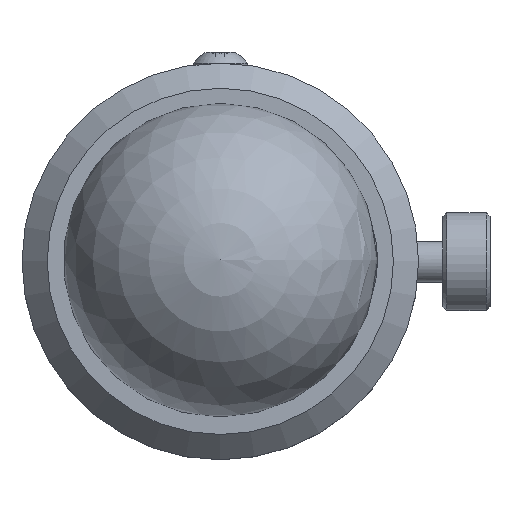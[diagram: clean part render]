
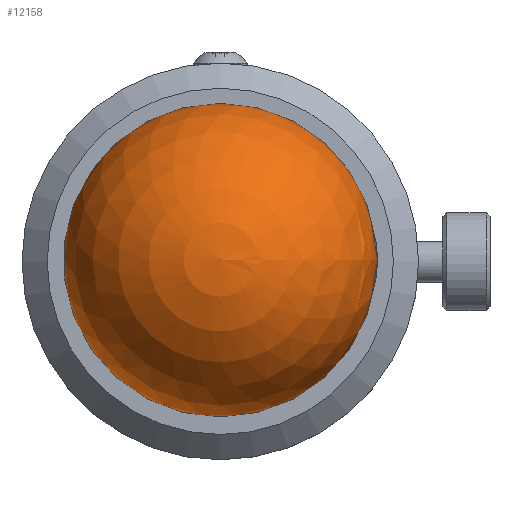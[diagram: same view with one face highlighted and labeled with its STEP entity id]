
A CAD part, top view. The second image highlights one B-rep face of the part: STEP entity #12158.
In plain terms, the highlighted spherical face has radius 15.875 mm.
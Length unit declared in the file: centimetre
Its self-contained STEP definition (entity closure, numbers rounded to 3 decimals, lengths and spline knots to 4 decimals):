
#113=SPHERICAL_SURFACE('',#42283,1.5875);
#3382=VERTEX_POINT('',#39260);
#3383=VERTEX_POINT('',#39262);
#3384=VERTEX_POINT('',#39263);
#3385=VERTEX_POINT('',#39265);
#4173=CIRCLE('',#42284,0.4763);
#4174=CIRCLE('',#42285,1.5875);
#4175=CIRCLE('',#42286,1.5875);
#5450=EDGE_CURVE('',#3382,#3382,#4173,.T.);
#5451=EDGE_CURVE('',#3383,#3384,#4174,.T.);
#5452=EDGE_CURVE('',#3383,#3385,#4175,.T.);
#8231=ORIENTED_EDGE('',*,*,#5450,.F.);
#8232=ORIENTED_EDGE('',*,*,#5451,.T.);
#8233=ORIENTED_EDGE('',*,*,#5451,.F.);
#8234=ORIENTED_EDGE('',*,*,#5452,.T.);
#8235=ORIENTED_EDGE('',*,*,#5452,.F.);
#10549=EDGE_LOOP('',(#8231));
#10550=EDGE_LOOP('',(#8232,#8233,#8234,#8235));
#11372=FACE_BOUND('',#10549,.T.);
#11373=FACE_BOUND('',#10550,.T.);
#12158=ADVANCED_FACE('',(#11372,#11373),#113,.T.);
#13600=DIRECTION('',(0.,0.,1.));
#13601=DIRECTION('',(1.,0.,0.));
#13602=DIRECTION('',(0.,0.,-1.));
#13603=DIRECTION('',(-0.44,-0.182,0.));
#13604=DIRECTION('',(-1.,0.,0.));
#13605=DIRECTION('',(0.,0.,1.588));
#13606=DIRECTION('',(1.,0.,0.));
#13607=DIRECTION('',(0.,1.588,0.));
#39258=CARTESIAN_POINT('',(0.,0.,20.3834));
#39259=CARTESIAN_POINT('',(0.,0.,18.869));
#39260=CARTESIAN_POINT('',(0.4399,0.1824,18.869));
#39261=CARTESIAN_POINT('',(0.,0.,20.3834));
#39262=CARTESIAN_POINT('',(0.,0.,
21.9709));
#39263=CARTESIAN_POINT('',(0.,0.5556,18.8963));
#39264=CARTESIAN_POINT('',(0.,0.,20.3834));
#39265=CARTESIAN_POINT('',(0.,-0.5556,18.8963));
#42283=AXIS2_PLACEMENT_3D('',#39258,#13600,#13601);
#42284=AXIS2_PLACEMENT_3D('',#39259,#13602,#13603);
#42285=AXIS2_PLACEMENT_3D('',#39261,#13604,#13605);
#42286=AXIS2_PLACEMENT_3D('',#39264,#13606,#13607);
